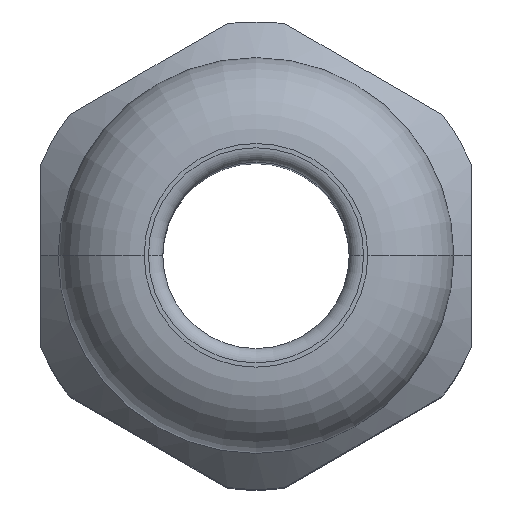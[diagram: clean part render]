
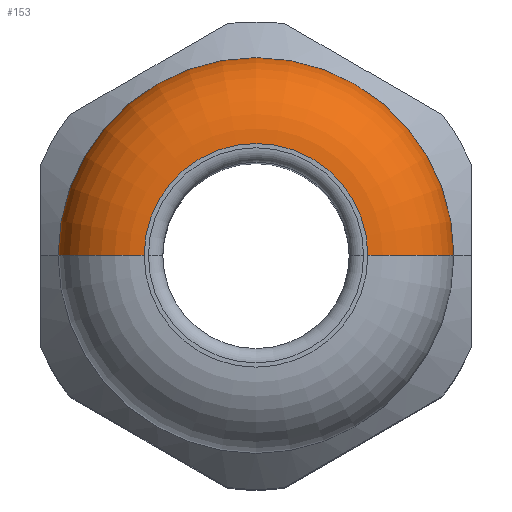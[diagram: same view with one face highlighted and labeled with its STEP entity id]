
A CAD part, top view. The second image highlights one B-rep face of the part: STEP entity #153.
In plain terms, the highlighted toroidal (fillet/blend) face has major radius 3.9 mm and minor radius 3 mm.
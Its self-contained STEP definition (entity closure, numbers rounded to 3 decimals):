
#37 = VERTEX_POINT ( 'NONE', #945 ) ;
#38 = VERTEX_POINT ( 'NONE', #944 ) ;
#39 = EDGE_CURVE ( 'NONE', #38, #37, #943, .T. ) ;
#43 = EDGE_CURVE ( 'NONE', #157, #37, #937, .T. ) ;
#47 = ORIENTED_EDGE ( 'NONE', *, *, #61, .F. ) ;
#48 = ORIENTED_EDGE ( 'NONE', *, *, #43, .T. ) ;
#50 = ORIENTED_EDGE ( 'NONE', *, *, #51, .T. ) ;
#51 = EDGE_CURVE ( 'NONE', #156, #157, #930, .T. ) ;
#61 = EDGE_CURVE ( 'NONE', #156, #38, #834, .T. ) ;
#66 = ORIENTED_EDGE ( 'NONE', *, *, #39, .F. ) ;
#153 = ADVANCED_FACE ( 'NONE', ( #1309 ), #1308, .T. ) ;
#154 = EDGE_LOOP ( 'NONE', ( #50, #48, #66, #47 ) ) ;
#156 = VERTEX_POINT ( 'NONE', #1302 ) ;
#157 = VERTEX_POINT ( 'NONE', #1301 ) ;
#830 = DIRECTION ( 'NONE',  ( 0., 0., -1. ) ) ;
#831 = DIRECTION ( 'NONE',  ( 0., -1., 0. ) ) ;
#832 = CARTESIAN_POINT ( 'NONE',  ( -3.9, 0., 27.5 ) ) ;
#833 = AXIS2_PLACEMENT_3D ( 'NONE', #832, #831, #830 ) ;
#834 = CIRCLE ( 'NONE', #833, 3. ) ;
#926 = DIRECTION ( 'NONE',  ( -1., 0., 0. ) ) ;
#927 = DIRECTION ( 'NONE',  ( 0., 0., -1. ) ) ;
#928 = CARTESIAN_POINT ( 'NONE',  ( 0., 0., 30.5 ) ) ;
#929 = AXIS2_PLACEMENT_3D ( 'NONE', #928, #927, #926 ) ;
#930 = CIRCLE ( 'NONE', #929, 3.9 ) ;
#933 = DIRECTION ( 'NONE',  ( -1., 0., 0. ) ) ;
#934 = DIRECTION ( 'NONE',  ( 0., 1., 0. ) ) ;
#935 = CARTESIAN_POINT ( 'NONE',  ( 3.9, 0., 27.5 ) ) ;
#936 = AXIS2_PLACEMENT_3D ( 'NONE', #935, #934, #933 ) ;
#937 = CIRCLE ( 'NONE', #936, 3. ) ;
#939 = DIRECTION ( 'NONE',  ( -1., 0., 0. ) ) ;
#940 = DIRECTION ( 'NONE',  ( 0., 0., -1. ) ) ;
#941 = CARTESIAN_POINT ( 'NONE',  ( 0., 0., 27.5 ) ) ;
#942 = AXIS2_PLACEMENT_3D ( 'NONE', #941, #940, #939 ) ;
#943 = CIRCLE ( 'NONE', #942, 6.9 ) ;
#944 = CARTESIAN_POINT ( 'NONE',  ( -6.9, 0., 27.5 ) ) ;
#945 = CARTESIAN_POINT ( 'NONE',  ( 6.9, 0., 27.5 ) ) ;
#1301 = CARTESIAN_POINT ( 'NONE',  ( 3.9, 0., 30.5 ) ) ;
#1302 = CARTESIAN_POINT ( 'NONE',  ( -3.9, 0., 30.5 ) ) ;
#1304 = DIRECTION ( 'NONE',  ( -1., 0., 0. ) ) ;
#1305 = DIRECTION ( 'NONE',  ( 0., 0., -1. ) ) ;
#1306 = CARTESIAN_POINT ( 'NONE',  ( 0., 0., 27.5 ) ) ;
#1307 = AXIS2_PLACEMENT_3D ( 'NONE', #1306, #1305, #1304 ) ;
#1308 = TOROIDAL_SURFACE ( 'NONE', #1307, 3.9, 3. ) ;
#1309 = FACE_OUTER_BOUND ( 'NONE', #154, .T. ) ;
